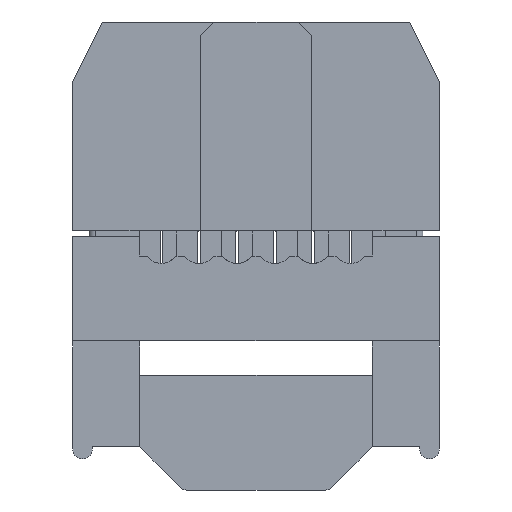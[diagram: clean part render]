
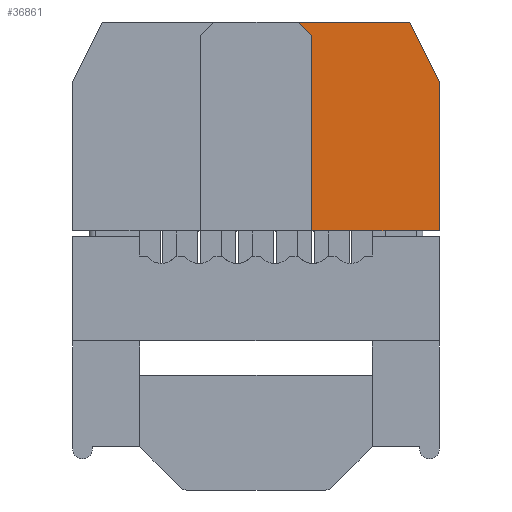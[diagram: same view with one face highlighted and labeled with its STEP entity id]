
A CAD part, front view. The second image highlights one B-rep face of the part: STEP entity #36861.
In plain terms, the highlighted planar face has unit normal (0, -1, 0).
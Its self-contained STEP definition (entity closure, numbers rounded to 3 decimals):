
#32703 = PLANE('',#32704);
#32704 = AXIS2_PLACEMENT_3D('',#32705,#32706,#32707);
#32705 = CARTESIAN_POINT('',(-6.15,-3.,7.));
#32706 = DIRECTION('',(0.,0.,1.));
#32707 = DIRECTION('',(1.,0.,0.));
#32759 = PLANE('',#32760);
#32760 = AXIS2_PLACEMENT_3D('',#32761,#32762,#32763);
#32761 = CARTESIAN_POINT('',(-6.15,-3.,0.));
#32762 = DIRECTION('',(0.,0.,1.));
#32763 = DIRECTION('',(1.,0.,0.));
#34077 = VERTEX_POINT('',#34078);
#34078 = CARTESIAN_POINT('',(6.15,-3.,0.));
#34092 = PLANE('',#34093);
#34093 = AXIS2_PLACEMENT_3D('',#34094,#34095,#34096);
#34094 = CARTESIAN_POINT('',(6.15,-3.,7.));
#34095 = DIRECTION('',(-1.,0.,0.));
#34096 = DIRECTION('',(0.,0.,1.));
#34104 = EDGE_CURVE('',#34105,#34077,#34107,.T.);
#34105 = VERTEX_POINT('',#34106);
#34106 = CARTESIAN_POINT('',(1.865,-3.,0.));
#34107 = SURFACE_CURVE('',#34108,(#34112,#34119),.PCURVE_S1.);
#34108 = LINE('',#34109,#34110);
#34109 = CARTESIAN_POINT('',(-6.15,-3.,0.));
#34110 = VECTOR('',#34111,1.);
#34111 = DIRECTION('',(1.,0.,0.));
#34112 = PCURVE('',#32759,#34113);
#34113 = DEFINITIONAL_REPRESENTATION('',(#34114),#34118);
#34114 = LINE('',#34115,#34116);
#34115 = CARTESIAN_POINT('',(0.,0.));
#34116 = VECTOR('',#34117,1.);
#34117 = DIRECTION('',(1.,0.));
#34118 = ( GEOMETRIC_REPRESENTATION_CONTEXT(2) 
PARAMETRIC_REPRESENTATION_CONTEXT() REPRESENTATION_CONTEXT('2D SPACE',''
  ) );
#34119 = PCURVE('',#34120,#34125);
#34120 = PLANE('',#34121);
#34121 = AXIS2_PLACEMENT_3D('',#34122,#34123,#34124);
#34122 = CARTESIAN_POINT('',(-6.15,-3.,7.));
#34123 = DIRECTION('',(0.,1.,0.));
#34124 = DIRECTION('',(-1.,0.,0.));
#34125 = DEFINITIONAL_REPRESENTATION('',(#34126),#34130);
#34126 = LINE('',#34127,#34128);
#34127 = CARTESIAN_POINT('',(-0.,-7.));
#34128 = VECTOR('',#34129,1.);
#34129 = DIRECTION('',(-1.,0.));
#34130 = ( GEOMETRIC_REPRESENTATION_CONTEXT(2) 
PARAMETRIC_REPRESENTATION_CONTEXT() REPRESENTATION_CONTEXT('2D SPACE',''
  ) );
#34148 = PLANE('',#34149);
#34149 = AXIS2_PLACEMENT_3D('',#34150,#34151,#34152);
#34150 = CARTESIAN_POINT('',(1.865,-3.86,0.));
#34151 = DIRECTION('',(-1.,0.,0.));
#34152 = DIRECTION('',(0.,0.,1.));
#35266 = VERTEX_POINT('',#35267);
#35267 = CARTESIAN_POINT('',(6.15,-3.,5.));
#35281 = PLANE('',#35282);
#35282 = AXIS2_PLACEMENT_3D('',#35283,#35284,#35285);
#35283 = CARTESIAN_POINT('',(6.15,-15.727,5.));
#35284 = DIRECTION('',(-0.894,0.,-0.447));
#35285 = DIRECTION('',(-0.447,0.,0.894));
#35293 = EDGE_CURVE('',#35266,#34077,#35294,.T.);
#35294 = SURFACE_CURVE('',#35295,(#35299,#35306),.PCURVE_S1.);
#35295 = LINE('',#35296,#35297);
#35296 = CARTESIAN_POINT('',(6.15,-3.,7.));
#35297 = VECTOR('',#35298,1.);
#35298 = DIRECTION('',(0.,0.,-1.));
#35299 = PCURVE('',#34092,#35300);
#35300 = DEFINITIONAL_REPRESENTATION('',(#35301),#35305);
#35301 = LINE('',#35302,#35303);
#35302 = CARTESIAN_POINT('',(0.,0.));
#35303 = VECTOR('',#35304,1.);
#35304 = DIRECTION('',(-1.,0.));
#35305 = ( GEOMETRIC_REPRESENTATION_CONTEXT(2) 
PARAMETRIC_REPRESENTATION_CONTEXT() REPRESENTATION_CONTEXT('2D SPACE',''
  ) );
#35306 = PCURVE('',#34120,#35307);
#35307 = DEFINITIONAL_REPRESENTATION('',(#35308),#35312);
#35308 = LINE('',#35309,#35310);
#35309 = CARTESIAN_POINT('',(-12.3,0.));
#35310 = VECTOR('',#35311,1.);
#35311 = DIRECTION('',(-0.,-1.));
#35312 = ( GEOMETRIC_REPRESENTATION_CONTEXT(2) 
PARAMETRIC_REPRESENTATION_CONTEXT() REPRESENTATION_CONTEXT('2D SPACE',''
  ) );
#36511 = VERTEX_POINT('',#36512);
#36512 = CARTESIAN_POINT('',(1.425,-3.,7.));
#36526 = PLANE('',#36527);
#36527 = AXIS2_PLACEMENT_3D('',#36528,#36529,#36530);
#36528 = CARTESIAN_POINT('',(1.425,-3.,7.));
#36529 = DIRECTION('',(0.707,0.,0.707)
  );
#36530 = DIRECTION('',(0.707,0.,-0.707)
  );
#36538 = EDGE_CURVE('',#36511,#36539,#36541,.T.);
#36539 = VERTEX_POINT('',#36540);
#36540 = CARTESIAN_POINT('',(5.15,-3.,7.));
#36541 = SURFACE_CURVE('',#36542,(#36546,#36553),.PCURVE_S1.);
#36542 = LINE('',#36543,#36544);
#36543 = CARTESIAN_POINT('',(-6.15,-3.,7.));
#36544 = VECTOR('',#36545,1.);
#36545 = DIRECTION('',(1.,0.,0.));
#36546 = PCURVE('',#32703,#36547);
#36547 = DEFINITIONAL_REPRESENTATION('',(#36548),#36552);
#36548 = LINE('',#36549,#36550);
#36549 = CARTESIAN_POINT('',(0.,0.));
#36550 = VECTOR('',#36551,1.);
#36551 = DIRECTION('',(1.,0.));
#36552 = ( GEOMETRIC_REPRESENTATION_CONTEXT(2) 
PARAMETRIC_REPRESENTATION_CONTEXT() REPRESENTATION_CONTEXT('2D SPACE',''
  ) );
#36553 = PCURVE('',#34120,#36554);
#36554 = DEFINITIONAL_REPRESENTATION('',(#36555),#36559);
#36555 = LINE('',#36556,#36557);
#36556 = CARTESIAN_POINT('',(0.,0.));
#36557 = VECTOR('',#36558,1.);
#36558 = DIRECTION('',(-1.,0.));
#36559 = ( GEOMETRIC_REPRESENTATION_CONTEXT(2) 
PARAMETRIC_REPRESENTATION_CONTEXT() REPRESENTATION_CONTEXT('2D SPACE',''
  ) );
#36841 = EDGE_CURVE('',#35266,#36539,#36842,.T.);
#36842 = SURFACE_CURVE('',#36843,(#36847,#36854),.PCURVE_S1.);
#36843 = LINE('',#36844,#36845);
#36844 = CARTESIAN_POINT('',(2.89,-3.,11.52));
#36845 = VECTOR('',#36846,1.);
#36846 = DIRECTION('',(-0.447,0.,0.894));
#36847 = PCURVE('',#35281,#36848);
#36848 = DEFINITIONAL_REPRESENTATION('',(#36849),#36853);
#36849 = LINE('',#36850,#36851);
#36850 = CARTESIAN_POINT('',(7.29,12.727));
#36851 = VECTOR('',#36852,1.);
#36852 = DIRECTION('',(1.,0.));
#36853 = ( GEOMETRIC_REPRESENTATION_CONTEXT(2) 
PARAMETRIC_REPRESENTATION_CONTEXT() REPRESENTATION_CONTEXT('2D SPACE',''
  ) );
#36854 = PCURVE('',#34120,#36855);
#36855 = DEFINITIONAL_REPRESENTATION('',(#36856),#36860);
#36856 = LINE('',#36857,#36858);
#36857 = CARTESIAN_POINT('',(-9.04,4.52));
#36858 = VECTOR('',#36859,1.);
#36859 = DIRECTION('',(0.447,0.894));
#36860 = ( GEOMETRIC_REPRESENTATION_CONTEXT(2) 
PARAMETRIC_REPRESENTATION_CONTEXT() REPRESENTATION_CONTEXT('2D SPACE',''
  ) );
#36861 = ADVANCED_FACE('',(#36862),#34120,.F.);
#36862 = FACE_BOUND('',#36863,.T.);
#36863 = EDGE_LOOP('',(#36864,#36865,#36866,#36867,#36890,#36911));
#36864 = ORIENTED_EDGE('',*,*,#35293,.F.);
#36865 = ORIENTED_EDGE('',*,*,#36841,.T.);
#36866 = ORIENTED_EDGE('',*,*,#36538,.F.);
#36867 = ORIENTED_EDGE('',*,*,#36868,.T.);
#36868 = EDGE_CURVE('',#36511,#36869,#36871,.T.);
#36869 = VERTEX_POINT('',#36870);
#36870 = CARTESIAN_POINT('',(1.865,-3.,6.56));
#36871 = SURFACE_CURVE('',#36872,(#36876,#36883),.PCURVE_S1.);
#36872 = LINE('',#36873,#36874);
#36873 = CARTESIAN_POINT('',(-2.363,-3.,10.788));
#36874 = VECTOR('',#36875,1.);
#36875 = DIRECTION('',(0.707,0.,-0.707
    ));
#36876 = PCURVE('',#34120,#36877);
#36877 = DEFINITIONAL_REPRESENTATION('',(#36878),#36882);
#36878 = LINE('',#36879,#36880);
#36879 = CARTESIAN_POINT('',(-3.788,3.788));
#36880 = VECTOR('',#36881,1.);
#36881 = DIRECTION('',(-0.707,-0.707));
#36882 = ( GEOMETRIC_REPRESENTATION_CONTEXT(2) 
PARAMETRIC_REPRESENTATION_CONTEXT() REPRESENTATION_CONTEXT('2D SPACE',''
  ) );
#36883 = PCURVE('',#36526,#36884);
#36884 = DEFINITIONAL_REPRESENTATION('',(#36885),#36889);
#36885 = LINE('',#36886,#36887);
#36886 = CARTESIAN_POINT('',(-5.356,0.));
#36887 = VECTOR('',#36888,1.);
#36888 = DIRECTION('',(1.,0.));
#36889 = ( GEOMETRIC_REPRESENTATION_CONTEXT(2) 
PARAMETRIC_REPRESENTATION_CONTEXT() REPRESENTATION_CONTEXT('2D SPACE',''
  ) );
#36890 = ORIENTED_EDGE('',*,*,#36891,.F.);
#36891 = EDGE_CURVE('',#34105,#36869,#36892,.T.);
#36892 = SURFACE_CURVE('',#36893,(#36897,#36904),.PCURVE_S1.);
#36893 = LINE('',#36894,#36895);
#36894 = CARTESIAN_POINT('',(1.865,-3.,0.));
#36895 = VECTOR('',#36896,1.);
#36896 = DIRECTION('',(0.,0.,1.));
#36897 = PCURVE('',#34120,#36898);
#36898 = DEFINITIONAL_REPRESENTATION('',(#36899),#36903);
#36899 = LINE('',#36900,#36901);
#36900 = CARTESIAN_POINT('',(-8.015,-7.));
#36901 = VECTOR('',#36902,1.);
#36902 = DIRECTION('',(0.,1.));
#36903 = ( GEOMETRIC_REPRESENTATION_CONTEXT(2) 
PARAMETRIC_REPRESENTATION_CONTEXT() REPRESENTATION_CONTEXT('2D SPACE',''
  ) );
#36904 = PCURVE('',#34148,#36905);
#36905 = DEFINITIONAL_REPRESENTATION('',(#36906),#36910);
#36906 = LINE('',#36907,#36908);
#36907 = CARTESIAN_POINT('',(0.,0.86));
#36908 = VECTOR('',#36909,1.);
#36909 = DIRECTION('',(1.,0.));
#36910 = ( GEOMETRIC_REPRESENTATION_CONTEXT(2) 
PARAMETRIC_REPRESENTATION_CONTEXT() REPRESENTATION_CONTEXT('2D SPACE',''
  ) );
#36911 = ORIENTED_EDGE('',*,*,#34104,.T.);
